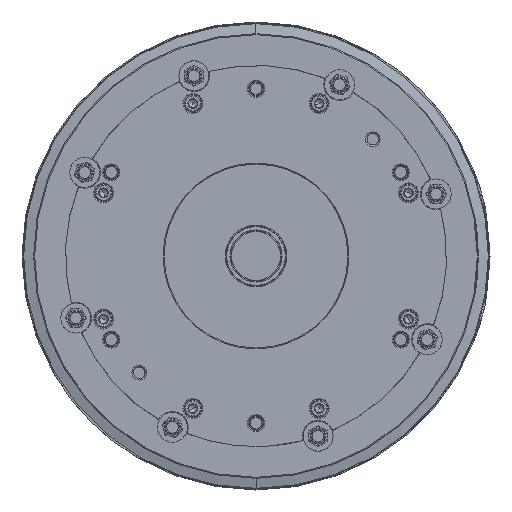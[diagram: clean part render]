
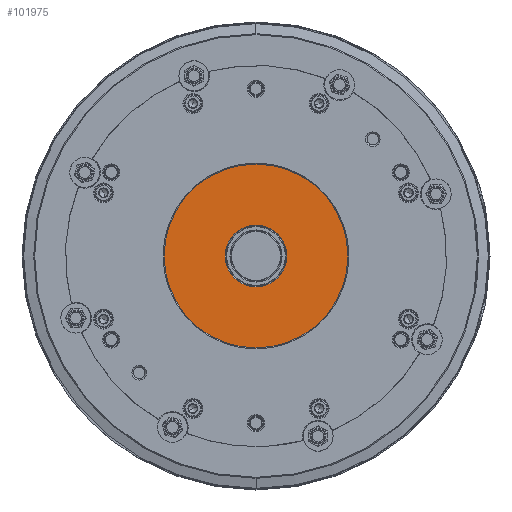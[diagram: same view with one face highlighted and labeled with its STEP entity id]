
A CAD part, left-side view. The second image highlights one B-rep face of the part: STEP entity #101975.
In plain terms, the highlighted planar face has unit normal (-1, 0, 0).
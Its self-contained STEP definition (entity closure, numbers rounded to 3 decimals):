
#18850 = DIRECTION ( 'NONE',  ( -1., 0., 0. ) ) ;
#19401 = DIRECTION ( 'NONE',  ( 0., 0., -1. ) ) ;
#19550 = ORIENTED_EDGE ( 'NONE', *, *, #45800, .T. ) ;
#20426 = EDGE_LOOP ( 'NONE', ( #19550, #53943 ) ) ;
#27028 = VERTEX_POINT ( 'NONE', #51333 ) ;
#27786 = DIRECTION ( 'NONE',  ( 1., 0., 0. ) ) ;
#29562 = AXIS2_PLACEMENT_3D ( 'NONE', #66555, #27786, #48167 ) ;
#32146 = DIRECTION ( 'NONE',  ( 0., 0., -1. ) ) ;
#38077 = CARTESIAN_POINT ( 'NONE',  ( -109., 0., 18.4 ) ) ;
#38310 = ORIENTED_EDGE ( 'NONE', *, *, #86155, .F. ) ;
#39528 = EDGE_CURVE ( 'NONE', #27028, #49084, #52780, .T. ) ;
#40575 = FACE_OUTER_BOUND ( 'NONE', #71211, .T. ) ;
#41892 = PLANE ( 'NONE',  #116969 ) ;
#42600 = ORIENTED_EDGE ( 'NONE', *, *, #39528, .F. ) ;
#45800 = EDGE_CURVE ( 'NONE', #117528, #133988, #74287, .T. ) ;
#46281 = AXIS2_PLACEMENT_3D ( 'NONE', #113808, #50647, #19401 ) ;
#48167 = DIRECTION ( 'NONE',  ( 0., 0., -1. ) ) ;
#49084 = VERTEX_POINT ( 'NONE', #103198 ) ;
#50568 = DIRECTION ( 'NONE',  ( 1., 0., 0. ) ) ;
#50647 = DIRECTION ( 'NONE',  ( 1., 0., 0. ) ) ;
#51333 = CARTESIAN_POINT ( 'NONE',  ( -109., 0., 55. ) ) ;
#52780 = CIRCLE ( 'NONE', #46281, 55. ) ;
#53943 = ORIENTED_EDGE ( 'NONE', *, *, #95870, .T. ) ;
#62132 = CIRCLE ( 'NONE', #29562, 18.4 ) ;
#66555 = CARTESIAN_POINT ( 'NONE',  ( -109., 0., 0. ) ) ;
#71211 = EDGE_LOOP ( 'NONE', ( #38310, #42600 ) ) ;
#73602 = DIRECTION ( 'NONE',  ( 0., 0., -1. ) ) ;
#74287 = CIRCLE ( 'NONE', #89426, 18.4 ) ;
#81340 = CARTESIAN_POINT ( 'NONE',  ( -109., 18.4, 0. ) ) ;
#81991 = DIRECTION ( 'NONE',  ( 0., 0., 1. ) ) ;
#83148 = CARTESIAN_POINT ( 'NONE',  ( -109., 0., 0. ) ) ;
#83764 = CARTESIAN_POINT ( 'NONE',  ( -109., 0., 0. ) ) ;
#86155 = EDGE_CURVE ( 'NONE', #49084, #27028, #92502, .T. ) ;
#89426 = AXIS2_PLACEMENT_3D ( 'NONE', #83148, #50568, #73602 ) ;
#92502 = CIRCLE ( 'NONE', #131591, 55. ) ;
#95870 = EDGE_CURVE ( 'NONE', #133988, #117528, #62132, .T. ) ;
#101975 = ADVANCED_FACE ( 'NONE', ( #132976, #40575 ), #41892, .T. ) ;
#103198 = CARTESIAN_POINT ( 'NONE',  ( -109., 0., -55. ) ) ;
#107317 = CARTESIAN_POINT ( 'NONE',  ( -109., 0., -18.4 ) ) ;
#113706 = DIRECTION ( 'NONE',  ( 1., 0., 0. ) ) ;
#113808 = CARTESIAN_POINT ( 'NONE',  ( -109., 0., 0. ) ) ;
#116969 = AXIS2_PLACEMENT_3D ( 'NONE', #81340, #18850, #81991 ) ;
#117528 = VERTEX_POINT ( 'NONE', #38077 ) ;
#131591 = AXIS2_PLACEMENT_3D ( 'NONE', #83764, #113706, #32146 ) ;
#132976 = FACE_BOUND ( 'NONE', #20426, .T. ) ;
#133988 = VERTEX_POINT ( 'NONE', #107317 ) ;
